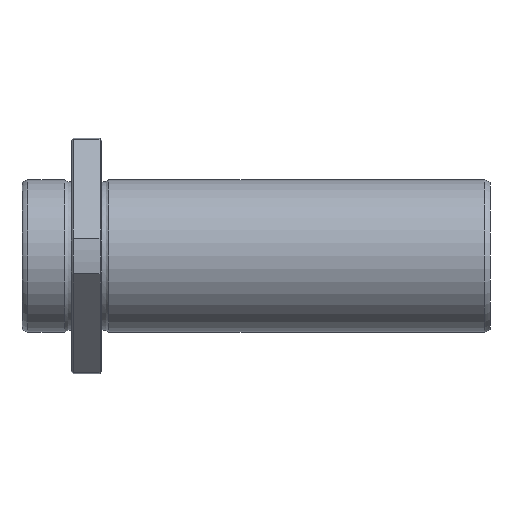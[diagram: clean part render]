
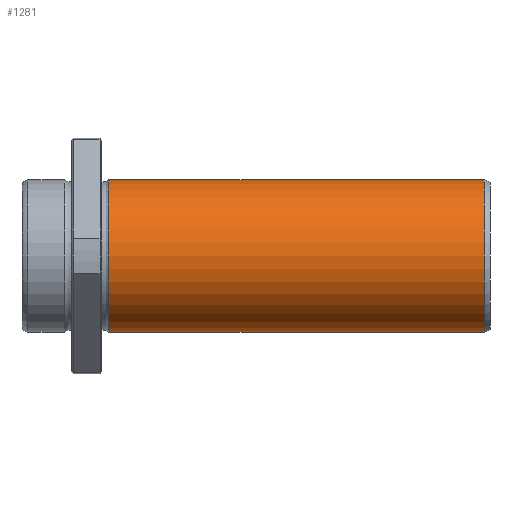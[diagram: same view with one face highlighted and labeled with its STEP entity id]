
A CAD part, front view. The second image highlights one B-rep face of the part: STEP entity #1281.
In plain terms, the highlighted cylindrical face has radius 20 mm (diameter 40 mm), a full revolution.
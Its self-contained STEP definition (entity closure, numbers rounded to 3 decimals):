
#1247=CARTESIAN_POINT('',(121.502,0.0,20.));
#1248=VERTEX_POINT('',#1247);
#1249=CARTESIAN_POINT('',(121.502,0.0,0.0));
#1250=DIRECTION('',(-1.0,0.0,0.0));
#1251=DIRECTION('',(0.0,0.0,1.0));
#1252=AXIS2_PLACEMENT_3D('',#1249,#1250,#1251);
#1253=CIRCLE('',#1252,20.);
#1254=EDGE_CURVE('',#1248,#1248,#1253,.T.);
#1262=CARTESIAN_POINT('',(72.162,0.0,0.0));
#1263=DIRECTION('',(-1.0,0.0,0.0));
#1264=DIRECTION('',(0.0,0.0,1.0));
#1265=AXIS2_PLACEMENT_3D('',#1262,#1263,#1264);
#1266=CYLINDRICAL_SURFACE('',#1265,20.);
#1267=CARTESIAN_POINT('',(22.823,0.0,20.));
#1268=VERTEX_POINT('',#1267);
#1269=CARTESIAN_POINT('',(22.823,0.0,0.0));
#1270=DIRECTION('',(-1.0,0.0,0.0));
#1271=DIRECTION('',(0.0,0.0,1.0));
#1272=AXIS2_PLACEMENT_3D('',#1269,#1270,#1271);
#1273=CIRCLE('',#1272,20.);
#1274=EDGE_CURVE('',#1268,#1268,#1273,.T.);
#1275=ORIENTED_EDGE('',*,*,#1274,.F.);
#1276=EDGE_LOOP('',(#1275));
#1277=FACE_OUTER_BOUND('',#1276,.T.);
#1278=ORIENTED_EDGE('',*,*,#1254,.T.);
#1279=EDGE_LOOP('',(#1278));
#1280=FACE_BOUND('',#1279,.T.);
#1281=ADVANCED_FACE('',(#1277,#1280),#1266,.T.);
